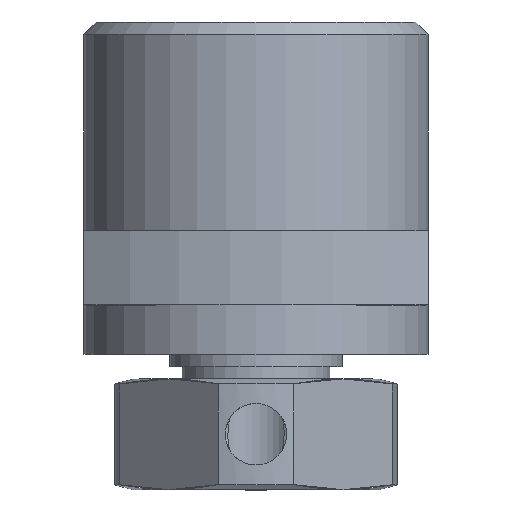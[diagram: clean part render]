
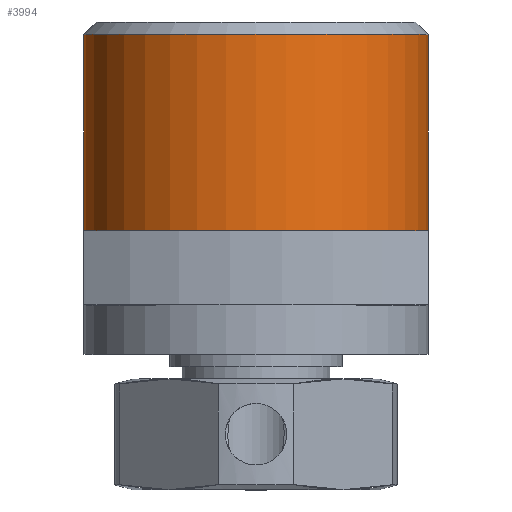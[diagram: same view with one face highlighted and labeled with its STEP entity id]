
A CAD part, top view. The second image highlights one B-rep face of the part: STEP entity #3994.
In plain terms, the highlighted cylindrical face has radius 7 mm (diameter 14 mm), a full revolution.
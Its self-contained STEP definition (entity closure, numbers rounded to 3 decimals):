
#3581=CARTESIAN_POINT('',(189.669,226.425,-35.1));
#3582=VERTEX_POINT('',#3581);
#3952=CARTESIAN_POINT('',(196.669,226.425,-42.1));
#3953=VERTEX_POINT('',#3952);
#3954=CARTESIAN_POINT('',(196.669,226.425,-35.1));
#3955=DIRECTION('',(0.,-1.,0.));
#3956=DIRECTION('',(0.,0.,1.));
#3957=AXIS2_PLACEMENT_3D('',#3954,#3955,#3956);
#3958=CIRCLE('',#3957,7.);
#3959=EDGE_CURVE('',#3582,#3953,#3958,.T.);
#3960=ORIENTED_EDGE('',*,*,#3959,.F.);
#3961=CARTESIAN_POINT('',(203.669,226.425,-35.1));
#3962=VERTEX_POINT('',#3961);
#3963=EDGE_CURVE('',#3962,#3582,#3958,.T.);
#3964=ORIENTED_EDGE('',*,*,#3963,.F.);
#3965=EDGE_CURVE('',#3953,#3962,#3958,.T.);
#3966=ORIENTED_EDGE('',*,*,#3965,.F.);
#3967=CARTESIAN_POINT('',(196.669,234.425,-42.1));
#3968=VERTEX_POINT('',#3967);
#3969=CARTESIAN_POINT('',(196.669,230.425,-42.1));
#3970=DIRECTION('',(0.,-1.,0.));
#3971=VECTOR('',#3970,7.);
#3972=LINE('',#3969,#3971);
#3973=EDGE_CURVE('',#3968,#3953,#3972,.T.);
#3974=ORIENTED_EDGE('',*,*,#3973,.F.);
#3975=CARTESIAN_POINT('',(196.669,234.425,-28.1));
#3976=VERTEX_POINT('',#3975);
#3977=CARTESIAN_POINT('',(196.669,234.425,-35.1));
#3978=DIRECTION('',(0.,-1.,0.));
#3979=DIRECTION('',(0.,0.,1.));
#3980=AXIS2_PLACEMENT_3D('',#3977,#3978,#3979);
#3981=CIRCLE('',#3980,7.);
#3982=EDGE_CURVE('',#3968,#3976,#3981,.T.);
#3983=ORIENTED_EDGE('',*,*,#3982,.T.);
#3984=EDGE_CURVE('',#3976,#3968,#3981,.T.);
#3985=ORIENTED_EDGE('',*,*,#3984,.T.);
#3986=ORIENTED_EDGE('',*,*,#3973,.T.);
#3987=EDGE_LOOP('',(#3960,#3964,#3966,#3974,#3983,#3985,#3986));
#3988=FACE_OUTER_BOUND('',#3987,.T.);
#3989=CARTESIAN_POINT('',(196.669,230.425,-35.1));
#3990=DIRECTION('',(0.,-1.,0.));
#3991=DIRECTION('',(0.,0.,-1.));
#3992=AXIS2_PLACEMENT_3D('',#3989,#3990,#3991);
#3993=CYLINDRICAL_SURFACE('',#3992,7.);
#3994=ADVANCED_FACE('',(#3988),#3993,.T.);
